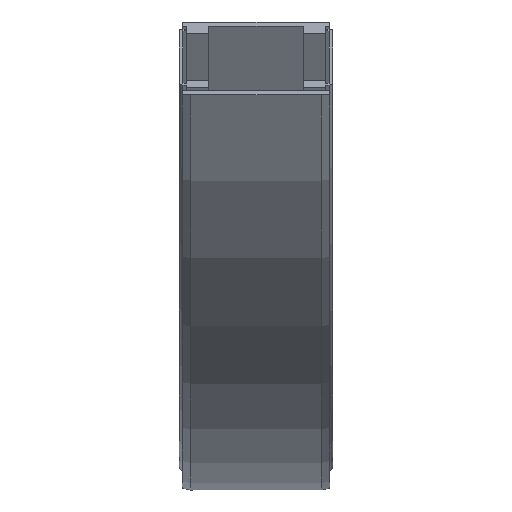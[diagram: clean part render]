
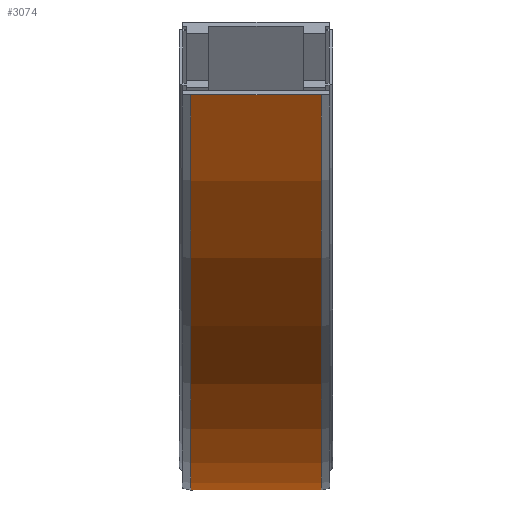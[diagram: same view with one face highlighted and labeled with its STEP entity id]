
A CAD part, top view. The second image highlights one B-rep face of the part: STEP entity #3074.
In plain terms, the highlighted cylindrical face has radius 442.5 mm (diameter 885 mm), a partial arc.
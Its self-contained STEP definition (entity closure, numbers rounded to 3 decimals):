
#3016=CARTESIAN_POINT('',(-36.5,-11.,0.));
#3017=VERTEX_POINT('',#3016);
#3024=CARTESIAN_POINT('',(-36.5,210.25,383.216));
#3025=VERTEX_POINT('',#3024);
#3026=CARTESIAN_POINT('',(-36.5,431.5,0.0));
#3027=DIRECTION('',(1.0,0.0,0.0));
#3028=DIRECTION('',(0.0,-0.5,0.866));
#3029=AXIS2_PLACEMENT_3D('',#3026,#3027,#3028);
#3030=CIRCLE('',#3029,442.5);
#3031=EDGE_CURVE('',#3025,#3017,#3030,.T.);
#3043=CARTESIAN_POINT('',(0.,431.5,0.0));
#3044=DIRECTION('',(1.0,0.0,0.0));
#3045=DIRECTION('',(0.0,-0.5,0.866));
#3046=AXIS2_PLACEMENT_3D('',#3043,#3044,#3045);
#3047=CYLINDRICAL_SURFACE('',#3046,442.5);
#3048=CARTESIAN_POINT('',(36.5,-11.,0.));
#3049=VERTEX_POINT('',#3048);
#3050=CARTESIAN_POINT('',(-36.5,-11.,0.));
#3051=DIRECTION('',(1.0,0.0,0.0));
#3052=VECTOR('',#3051,73.);
#3053=LINE('',#3050,#3052);
#3054=EDGE_CURVE('',#3017,#3049,#3053,.T.);
#3055=ORIENTED_EDGE('',*,*,#3054,.T.);
#3056=CARTESIAN_POINT('',(36.5,210.25,383.216));
#3057=VERTEX_POINT('',#3056);
#3058=CARTESIAN_POINT('',(36.5,431.5,0.0));
#3059=DIRECTION('',(1.0,0.0,0.0));
#3060=DIRECTION('',(0.0,-0.5,0.866));
#3061=AXIS2_PLACEMENT_3D('',#3058,#3059,#3060);
#3062=CIRCLE('',#3061,442.5);
#3063=EDGE_CURVE('',#3057,#3049,#3062,.T.);
#3064=ORIENTED_EDGE('',*,*,#3063,.F.);
#3065=CARTESIAN_POINT('',(-36.5,210.25,383.216));
#3066=DIRECTION('',(1.0,0.0,0.0));
#3067=VECTOR('',#3066,73.);
#3068=LINE('',#3065,#3067);
#3069=EDGE_CURVE('',#3025,#3057,#3068,.T.);
#3070=ORIENTED_EDGE('',*,*,#3069,.F.);
#3071=ORIENTED_EDGE('',*,*,#3031,.T.);
#3072=EDGE_LOOP('',(#3055,#3064,#3070,#3071));
#3073=FACE_OUTER_BOUND('',#3072,.T.);
#3074=ADVANCED_FACE('',(#3073),#3047,.T.);
